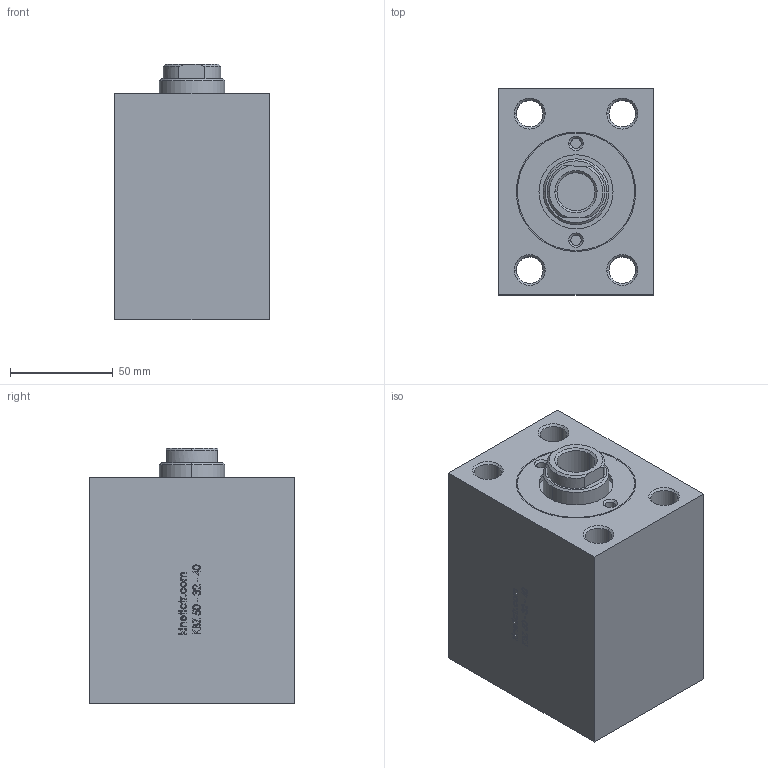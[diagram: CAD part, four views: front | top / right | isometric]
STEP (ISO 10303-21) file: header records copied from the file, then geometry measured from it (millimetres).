
FILE_DESCRIPTION (( 'STEP AP214' ), '1' );
FILE_NAME ('KBZ_02_50_32_45.STEP', '2018-12-29T15:58:34', ( '' ), ( '' ), 'SwSTEP 2.0', 'SolidWorks 2018', '' );
FILE_SCHEMA (( 'AUTOMOTIVE_DESIGN' ));
Length unit declared in the file: millimetre
Products named in the file (5): 32_M尳; KBZ_50_PÝSTON; KBZ_02_50_32_45; 50-32-40-GOVDE; KBZ_50-32_ON_KAPAK
Assembly tree (4 placements, depth 2):
  KBZ_02_50_32_45
    50-32-40-GOVDE
    32_M尳
    KBZ_50_PÝSTON
    KBZ_50-32_ON_KAPAK
Bounding box: 75 x 100 x 124 mm (x, y, z)
Volume: 688180.1 mm3; surface area: 123304.5 mm2
Topology: 4 solids, 4 shells, 481 faces, 1177 edges, 760 vertices
Faces by surface type: plane 211, bspline 124, cone 73, cylinder 73
Entity records: 21105 total; most frequent: CARTESIAN_POINT 10069, ORIENTED_EDGE 2354, DIRECTION 1864, EDGE_CURVE 1177, VERTEX_POINT 760, LINE 706, VECTOR 706, AXIS2_PLACEMENT_3D 579
